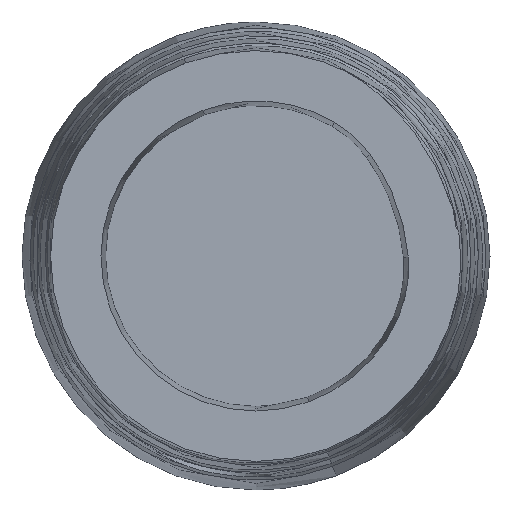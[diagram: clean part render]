
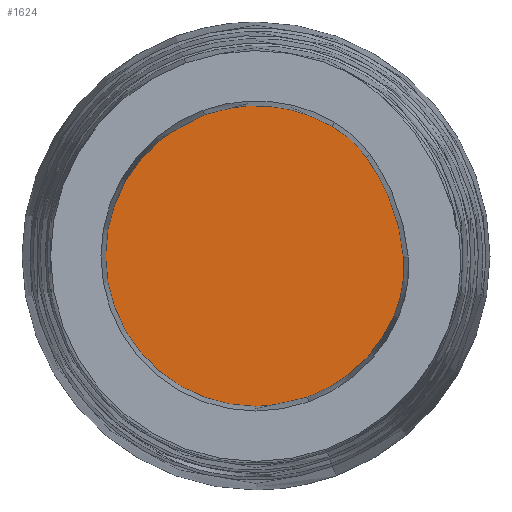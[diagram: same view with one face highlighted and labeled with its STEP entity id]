
A CAD part, front view. The second image highlights one B-rep face of the part: STEP entity #1624.
In plain terms, the highlighted planar face has unit normal (0, -1, 0).
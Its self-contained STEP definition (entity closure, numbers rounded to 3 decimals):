
#1624 = ADVANCED_FACE ( 'NONE', ( #9251 ), #66803, .F. ) ;
#1654 = EDGE_LOOP ( 'NONE', ( #119788, #105185, #97866, #120616, #6817, #81837 ) ) ;
#3534 = B_SPLINE_CURVE_WITH_KNOTS ( 'NONE', 3,
 ( #60205, #3869, #52205, #69395, #78578, #99328 ),
 .UNSPECIFIED., .F., .F.,
 ( 4, 2, 4 ),
 ( 0., 0.023, 0.046 ),
 .UNSPECIFIED. ) ;
#3869 = CARTESIAN_POINT ( 'NONE',  ( 105.078, -563.242, 100.973 ) ) ;
#5389 = CARTESIAN_POINT ( 'NONE',  ( 1.284, -563.242, -1.886 ) ) ;
#5443 = VERTEX_POINT ( 'NONE', #91181 ) ;
#6817 = ORIENTED_EDGE ( 'NONE', *, *, #41982, .T. ) ;
#8253 = EDGE_CURVE ( 'NONE', #64699, #5443, #37788, .T. ) ;
#9251 = FACE_OUTER_BOUND ( 'NONE', #1654, .T. ) ;
#9766 = EDGE_CURVE ( 'NONE', #73491, #32944, #102295, .T. ) ;
#10104 = CARTESIAN_POINT ( 'NONE',  ( 138.229, -563.242, -56.582 ) ) ;
#13852 = CARTESIAN_POINT ( 'NONE',  ( 125.671, -563.242, 68.479 ) ) ;
#14102 = CARTESIAN_POINT ( 'NONE',  ( 136.236, -563.242, -61.122 ) ) ;
#18083 = CARTESIAN_POINT ( 'NONE',  ( 143.888, -563.242, -37.717 ) ) ;
#18826 = CARTESIAN_POINT ( 'NONE',  ( 132.96, -563.242, 52.387 ) ) ;
#20043 = CARTESIAN_POINT ( 'NONE',  ( 139.934, -563.242, 31.444 ) ) ;
#21845 = CARTESIAN_POINT ( 'NONE',  ( 109.51, -563.242, 94.817 ) ) ;
#22440 = CARTESIAN_POINT ( 'NONE',  ( 119.392, -563.242, 80.147 ) ) ;
#25969 = AXIS2_PLACEMENT_3D ( 'NONE', #67997, #87555, #49625 ) ;
#26502 = B_SPLINE_CURVE_WITH_KNOTS ( 'NONE', 3,
 ( #76975, #102119, #66591, #121077, #20043, #74562, #111892, #18826, #57401, #59814, #13852, #22440, #68397, #21845 ),
 .UNSPECIFIED., .F., .F.,
 ( 4, 2, 2, 2, 2, 2, 4 ),
 ( 0., 0.026, 0.04, 0.053, 0.066, 0.079, 0.106 ),
 .UNSPECIFIED. ) ;
#27048 = EDGE_CURVE ( 'NONE', #49711, #64699, #3534, .T. ) ;
#32944 = VERTEX_POINT ( 'NONE', #14102 ) ;
#36314 = AXIS2_PLACEMENT_3D ( 'NONE', #5389, #78911, #108266 ) ;
#37788 = CIRCLE ( 'NONE', #80768, 147.381 ) ;
#38599 = CARTESIAN_POINT ( 'NONE',  ( 1.284, -563.242, -1.886 ) ) ;
#41033 = B_SPLINE_CURVE_WITH_KNOTS ( 'NONE', 3,
 ( #46246, #10104, #95188, #84801, #18083, #45651, #67049, #57259, #120932, #111749 ),
 .UNSPECIFIED., .F., .F.,
 ( 4, 2, 2, 2, 4 ),
 ( 0., 0.015, 0.03, 0.044, 0.059 ),
 .UNSPECIFIED. ) ;
#41982 = EDGE_CURVE ( 'NONE', #5443, #73491, #65610, .T. ) ;
#45651 = CARTESIAN_POINT ( 'NONE',  ( 145.549, -563.242, -27.949 ) ) ;
#45927 = VERTEX_POINT ( 'NONE', #47002 ) ;
#46246 = CARTESIAN_POINT ( 'NONE',  ( 136.236, -563.242, -61.122 ) ) ;
#47002 = CARTESIAN_POINT ( 'NONE',  ( 145.974, -563.242, -3.274 ) ) ;
#48400 = DIRECTION ( 'NONE',  ( -0.94, 0., -0.342 ) ) ;
#48780 = EDGE_CURVE ( 'NONE', #45927, #49711, #26502, .T. ) ;
#49517 = AXIS2_PLACEMENT_3D ( 'NONE', #38599, #113295, #48400 ) ;
#49625 = DIRECTION ( 'NONE',  ( -0.94, 0., -0.342 ) ) ;
#49711 = VERTEX_POINT ( 'NONE', #112962 ) ;
#50282 = EDGE_CURVE ( 'NONE', #32944, #45927, #41033, .T. ) ;
#52205 = CARTESIAN_POINT ( 'NONE',  ( 100.003, -563.242, 106.595 ) ) ;
#57259 = CARTESIAN_POINT ( 'NONE',  ( 146.501, -563.242, -13.137 ) ) ;
#57401 = CARTESIAN_POINT ( 'NONE',  ( 131.281, -563.242, 56.464 ) ) ;
#59814 = CARTESIAN_POINT ( 'NONE',  ( 127.638, -563.242, 64.507 ) ) ;
#60205 = CARTESIAN_POINT ( 'NONE',  ( 109.51, -563.242, 94.817 ) ) ;
#60791 = CARTESIAN_POINT ( 'NONE',  ( 75.977, -563.242, 125.165 ) ) ;
#64699 = VERTEX_POINT ( 'NONE', #60791 ) ;
#65610 = CIRCLE ( 'NONE', #36314, 147.381 ) ;
#66591 = CARTESIAN_POINT ( 'NONE',  ( 143.892, -563.242, 14.272 ) ) ;
#66803 = PLANE ( 'NONE',  #25969 ) ;
#67049 = CARTESIAN_POINT ( 'NONE',  ( 146.075, -563.242, -23.031 ) ) ;
#67997 = CARTESIAN_POINT ( 'NONE',  ( 148.852, -563.242, -33.536 ) ) ;
#68397 = CARTESIAN_POINT ( 'NONE',  ( 114.691, -563.242, 87.621 ) ) ;
#69395 = CARTESIAN_POINT ( 'NONE',  ( 88.707, -563.242, 116.794 ) ) ;
#69664 = DIRECTION ( 'NONE',  ( -0.94, 0., -0.342 ) ) ;
#73491 = VERTEX_POINT ( 'NONE', #93633 ) ;
#74562 = CARTESIAN_POINT ( 'NONE',  ( 137.431, -563.242, 39.929 ) ) ;
#76975 = CARTESIAN_POINT ( 'NONE',  ( 145.974, -563.242, -3.274 ) ) ;
#78578 = CARTESIAN_POINT ( 'NONE',  ( 82.542, -563.242, 121.305 ) ) ;
#78846 = DIRECTION ( 'NONE',  ( 0., -1., 0. ) ) ;
#78911 = DIRECTION ( 'NONE',  ( 0., -1., 0. ) ) ;
#79434 = CARTESIAN_POINT ( 'NONE',  ( 1.284, -563.242, -1.886 ) ) ;
#80768 = AXIS2_PLACEMENT_3D ( 'NONE', #79434, #78846, #69664 ) ;
#81837 = ORIENTED_EDGE ( 'NONE', *, *, #9766, .T. ) ;
#84801 = CARTESIAN_POINT ( 'NONE',  ( 142.759, -563.242, -42.523 ) ) ;
#87555 = DIRECTION ( 'NONE',  ( 0., 1., 0. ) ) ;
#91181 = CARTESIAN_POINT ( 'NONE',  ( -49.124, -563.242, 136.606 ) ) ;
#93633 = CARTESIAN_POINT ( 'NONE',  ( 51.691, -563.242, -140.379 ) ) ;
#95188 = CARTESIAN_POINT ( 'NONE',  ( 139.93, -563.242, -51.955 ) ) ;
#97866 = ORIENTED_EDGE ( 'NONE', *, *, #27048, .T. ) ;
#99328 = CARTESIAN_POINT ( 'NONE',  ( 75.977, -563.242, 125.165 ) ) ;
#102119 = CARTESIAN_POINT ( 'NONE',  ( 145.211, -563.242, 5.556 ) ) ;
#102295 = CIRCLE ( 'NONE', #49517, 147.381 ) ;
#105185 = ORIENTED_EDGE ( 'NONE', *, *, #48780, .T. ) ;
#108266 = DIRECTION ( 'NONE',  ( -0.94, 0., -0.342 ) ) ;
#111749 = CARTESIAN_POINT ( 'NONE',  ( 145.974, -563.242, -3.274 ) ) ;
#111892 = CARTESIAN_POINT ( 'NONE',  ( 136.035, -563.242, 44.121 ) ) ;
#112962 = CARTESIAN_POINT ( 'NONE',  ( 109.51, -563.242, 94.817 ) ) ;
#113295 = DIRECTION ( 'NONE',  ( 0., -1., 0. ) ) ;
#119788 = ORIENTED_EDGE ( 'NONE', *, *, #50282, .T. ) ;
#120616 = ORIENTED_EDGE ( 'NONE', *, *, #8253, .T. ) ;
#120932 = CARTESIAN_POINT ( 'NONE',  ( 146.4, -563.242, -8.203 ) ) ;
#121077 = CARTESIAN_POINT ( 'NONE',  ( 141.034, -563.242, 27.173 ) ) ;
